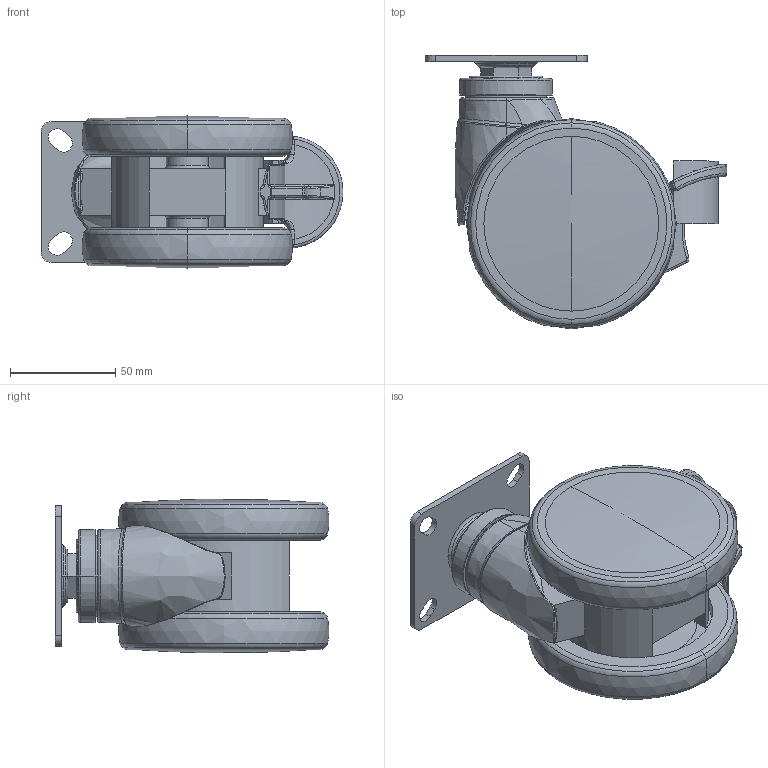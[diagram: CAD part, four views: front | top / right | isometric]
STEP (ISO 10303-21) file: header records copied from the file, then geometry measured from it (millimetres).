
FILE_DESCRIPTION((''),'2;1');
FILE_NAME('E19024-57_ASM','2022-09-09T',('lenovo'),(''),'PRO/ENGINEER BY PARAMETRIC TECHNOLOGY CORPORATION, 2010280','PRO/ENGINEER BY PARAMETRIC TECHNOLOGY CORPORATION, 2010280','');
FILE_SCHEMA(('CONFIG_CONTROL_DESIGN'));
Length unit declared in the file: millimetre
Products named in the file (12): E1904-701; E1904-512; MANIFOLD_SOLID_BREP_93; MANIFOLD_SOLID_BREP_94; MANIFOLD_SOLID_BREP_95; ASM0003_ASM; LUNZI_ASM; E1904-251; E1914-052; E1904-891; 510-01A; E19024-57_ASM
Assembly tree (13 placements, depth 4):
  E19024-57_ASM
    E1904-701
    E1904-512
    LUNZI_ASM  x2
      ASM0003_ASM
        MANIFOLD_SOLID_BREP_93
        MANIFOLD_SOLID_BREP_94
        MANIFOLD_SOLID_BREP_95
    E1904-251
    E1914-052
    E1904-891  x2
    510-01A
Bounding box: 143.45 x 130.11 x 73.09 mm (x, y, z)
Volume: 372480.1 mm3; surface area: 173695.6 mm2
Topology: 14 solids, 23 shells, 840 faces, 2023 edges, 1254 vertices
Faces by surface type: plane 229, torus 219, bspline 175, cylinder 158, cone 35, sphere 20, extrusion 4
Entity records: 30762 total; most frequent: CARTESIAN_POINT 16319, ORIENTED_EDGE 3076, DIRECTION 2789, EDGE_CURVE 1562, AXIS2_PLACEMENT_3D 1160, VERTEX_POINT 973, EDGE_LOOP 712, FACE_OUTER_BOUND 652
